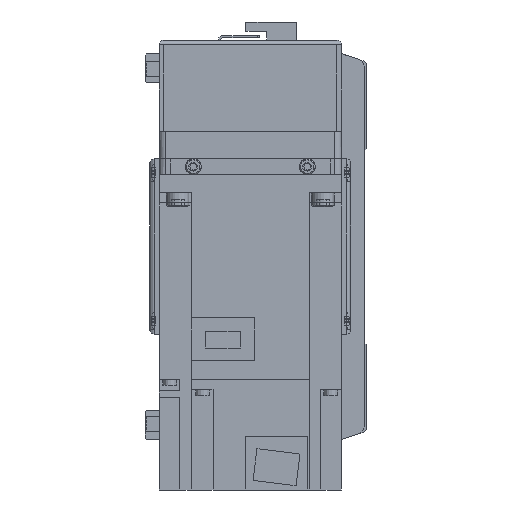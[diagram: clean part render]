
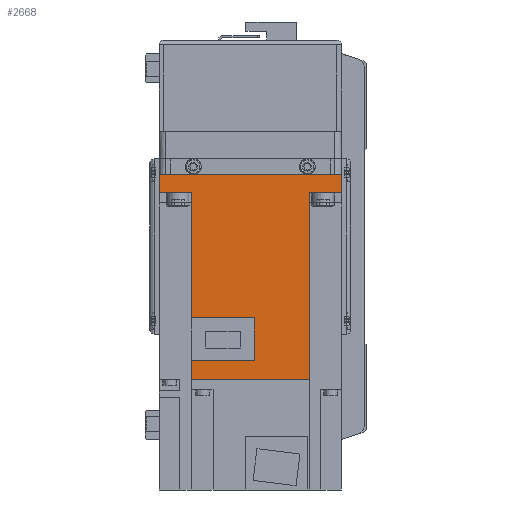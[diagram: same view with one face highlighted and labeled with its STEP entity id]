
A CAD part, left-side view. The second image highlights one B-rep face of the part: STEP entity #2668.
In plain terms, the highlighted planar face has unit normal (-1, 0, 0) as drawn and (1, 0, 0) by its records, which use the part's own axes.
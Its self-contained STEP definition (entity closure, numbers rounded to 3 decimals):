
#2668 = ADVANCED_FACE( '', ( #5963 ), #5964, .F. );
#5963 = FACE_OUTER_BOUND( '', #9891, .T. );
#5964 = PLANE( '', #9892 );
#9891 = EDGE_LOOP( '', ( #17422, #17423, #17424, #17425, #17426, #17427, #17428, #17429, #17430, #17431, #17432, #17433 ) );
#9892 = AXIS2_PLACEMENT_3D( '', #17434, #17435, #17436 );
#17422 = ORIENTED_EDGE( '', *, *, #23362, .F. );
#17423 = ORIENTED_EDGE( '', *, *, #23218, .F. );
#17424 = ORIENTED_EDGE( '', *, *, #24724, .F. );
#17425 = ORIENTED_EDGE( '', *, *, #23303, .T. );
#17426 = ORIENTED_EDGE( '', *, *, #23650, .F. );
#17427 = ORIENTED_EDGE( '', *, *, #23462, .T. );
#17428 = ORIENTED_EDGE( '', *, *, #24725, .T. );
#17429 = ORIENTED_EDGE( '', *, *, #24726, .F. );
#17430 = ORIENTED_EDGE( '', *, *, #24727, .F. );
#17431 = ORIENTED_EDGE( '', *, *, #23220, .F. );
#17432 = ORIENTED_EDGE( '', *, *, #24728, .F. );
#17433 = ORIENTED_EDGE( '', *, *, #24729, .F. );
#17434 = CARTESIAN_POINT( '', ( 40., 89.8, 40. ) );
#17435 = DIRECTION( '', ( -1., 0., 0. ) );
#17436 = DIRECTION( '', ( 0., 0., 1. ) );
#23218 = EDGE_CURVE( '', #28193, #28195, #28196, .T. );
#23220 = EDGE_CURVE( '', #28197, #28199, #28200, .T. );
#23303 = EDGE_CURVE( '', #28331, #28329, #28332, .T. );
#23362 = EDGE_CURVE( '', #28195, #28424, #28425, .T. );
#23462 = EDGE_CURVE( '', #28585, #28583, #28586, .T. );
#23650 = EDGE_CURVE( '', #28585, #28329, #28882, .T. );
#24724 = EDGE_CURVE( '', #28331, #28193, #30422, .T. );
#24725 = EDGE_CURVE( '', #28583, #30423, #30424, .T. );
#24726 = EDGE_CURVE( '', #30425, #30423, #30426, .T. );
#24727 = EDGE_CURVE( '', #28199, #30425, #30427, .T. );
#24728 = EDGE_CURVE( '', #30428, #28197, #30429, .T. );
#24729 = EDGE_CURVE( '', #28424, #30428, #30430, .T. );
#28193 = VERTEX_POINT( '', #35358 );
#28195 = VERTEX_POINT( '', #35361 );
#28196 = LINE( '', #35362, #35363 );
#28197 = VERTEX_POINT( '', #35364 );
#28199 = VERTEX_POINT( '', #35367 );
#28200 = LINE( '', #35368, #35369 );
#28329 = VERTEX_POINT( '', #35546 );
#28331 = VERTEX_POINT( '', #35549 );
#28332 = LINE( '', #35550, #35551 );
#28424 = VERTEX_POINT( '', #35680 );
#28425 = LINE( '', #35681, #35682 );
#28583 = VERTEX_POINT( '', #35968 );
#28585 = VERTEX_POINT( '', #35971 );
#28586 = LINE( '', #35972, #35973 );
#28882 = LINE( '', #36492, #36493 );
#30422 = LINE( '', #39220, #39221 );
#30423 = VERTEX_POINT( '', #39222 );
#30424 = LINE( '', #39223, #39224 );
#30425 = VERTEX_POINT( '', #39225 );
#30426 = LINE( '', #39226, #39227 );
#30427 = LINE( '', #39228, #39229 );
#30428 = VERTEX_POINT( '', #39230 );
#30429 = LINE( '', #39231, #39232 );
#30430 = LINE( '', #39233, #39234 );
#35358 = CARTESIAN_POINT( '', ( 40., 89.8, -25.95 ) );
#35361 = CARTESIAN_POINT( '', ( 40., 81.4, -25.95 ) );
#35362 = CARTESIAN_POINT( '', ( 40., 158., -25.95 ) );
#35363 = VECTOR( '', #42989, 1000. );
#35364 = CARTESIAN_POINT( '', ( 40., 62.8, -25.95 ) );
#35367 = CARTESIAN_POINT( '', ( 40., 8., -25.95 ) );
#35368 = CARTESIAN_POINT( '', ( 40., 158., -25.95 ) );
#35369 = VECTOR( '', #42991, 1000. );
#35546 = CARTESIAN_POINT( '', ( 40., 8., 25.95 ) );
#35549 = CARTESIAN_POINT( '', ( 40., 89.8, 25.95 ) );
#35550 = CARTESIAN_POINT( '', ( 40., 158., 25.95 ) );
#35551 = VECTOR( '', #43086, 1000. );
#35680 = CARTESIAN_POINT( '', ( 40., 81.4, 1.8 ) );
#35681 = CARTESIAN_POINT( '', ( 40., 81.4, -26. ) );
#35682 = VECTOR( '', #43158, 1000. );
#35968 = CARTESIAN_POINT( '', ( 40., 0., 40. ) );
#35971 = CARTESIAN_POINT( '', ( 40., 8., 40. ) );
#35972 = CARTESIAN_POINT( '', ( 40., 89.8, 40. ) );
#35973 = VECTOR( '', #43276, 1000. );
#36492 = CARTESIAN_POINT( '', ( 40., 8., 40. ) );
#36493 = VECTOR( '', #43490, 1000. );
#39220 = CARTESIAN_POINT( '', ( 40., 89.8, 40. ) );
#39221 = VECTOR( '', #44714, 1000. );
#39222 = CARTESIAN_POINT( '', ( 40., 0., -40. ) );
#39223 = CARTESIAN_POINT( '', ( 40., 0., 40. ) );
#39224 = VECTOR( '', #44715, 1000. );
#39225 = CARTESIAN_POINT( '', ( 40., 8., -40. ) );
#39226 = CARTESIAN_POINT( '', ( 40., 89.8, -40. ) );
#39227 = VECTOR( '', #44716, 1000. );
#39228 = CARTESIAN_POINT( '', ( 40., 8., 40. ) );
#39229 = VECTOR( '', #44717, 1000. );
#39230 = CARTESIAN_POINT( '', ( 40., 62.8, 1.8 ) );
#39231 = CARTESIAN_POINT( '', ( 40., 62.8, 1.8 ) );
#39232 = VECTOR( '', #44718, 1000. );
#39233 = CARTESIAN_POINT( '', ( 40., 81.4, 1.8 ) );
#39234 = VECTOR( '', #44719, 1000. );
#42989 = DIRECTION( '', ( 0., -1., 0. ) );
#42991 = DIRECTION( '', ( 0., -1., 0. ) );
#43086 = DIRECTION( '', ( 0., -1., 0. ) );
#43158 = DIRECTION( '', ( 0., 0., 1. ) );
#43276 = DIRECTION( '', ( 0., -1., 0. ) );
#43490 = DIRECTION( '', ( 0., 0., -1. ) );
#44714 = DIRECTION( '', ( 0., 0., -1. ) );
#44715 = DIRECTION( '', ( 0., 0., -1. ) );
#44716 = DIRECTION( '', ( 0., -1., 0. ) );
#44717 = DIRECTION( '', ( 0., 0., -1. ) );
#44718 = DIRECTION( '', ( 0., 0., -1. ) );
#44719 = DIRECTION( '', ( 0., -1., 0. ) );
